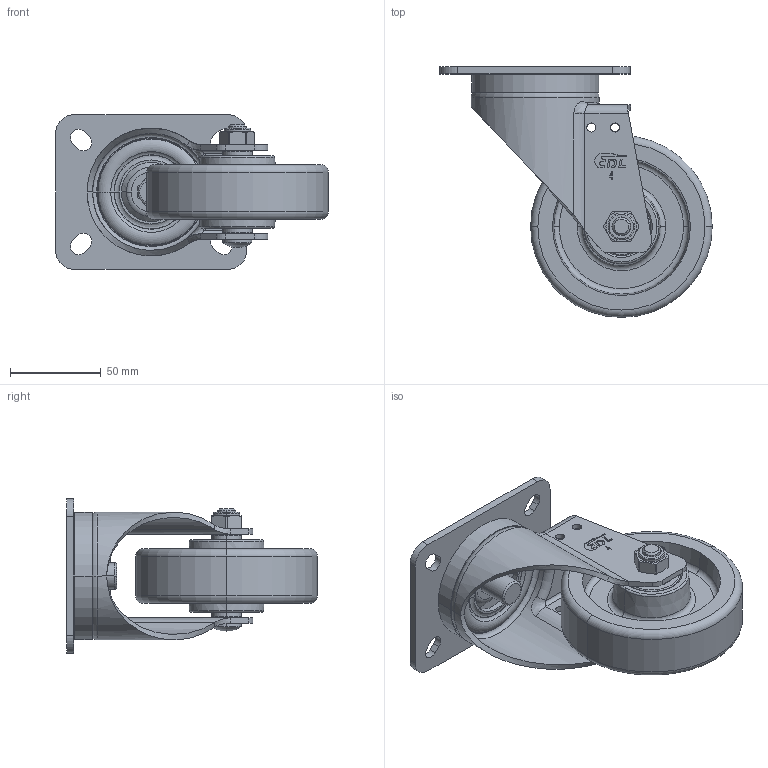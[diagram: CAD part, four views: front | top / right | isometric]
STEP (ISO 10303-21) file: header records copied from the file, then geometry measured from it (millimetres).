
FILE_DESCRIPTION((''),'2;1');
FILE_NAME('66114_ASM_2_ASM','2024-04-27T',('Lenovo'),(''),'PRO/ENGINEER BY PARAMETRIC TECHNOLOGY CORPORATION, 2010280','PRO/ENGINEER BY PARAMETRIC TECHNOLOGY CORPORATION, 2010280','');
FILE_SCHEMA(('CONFIG_CONTROL_DESIGN'));
Length unit declared in the file: millimetre
Products named in the file (27): 6610-201_1; 6614-311_2; 6610-051_1; 6600-734_1; 674-986AA_3; MANIFOLD_SOLID_BREP_14988; MANIFOLD_SOLID_BREP_15356; MANIFOLD_SOLID_BREP_15394; MANIFOLD_SOLID_BREP_15432; MANIFOLD_SOLID_BREP_15470; MANIFOLD_SOLID_BREP_15508; MANIFOLD_SOLID_BREP_15546; MANIFOLD_SOLID_BREP_15584; MANIFOLD_SOLID_BREP_15622; MANIFOLD_SOLID_BREP_15660; MANIFOLD_SOLID_BREP_15698; MANIFOLD_SOLID_BREP_15736; MANIFOLD_SOLID_BREP_15774; MANIFOLD_SOLID_BREP_15812; MANIFOLD_SOLID_BREP_15850; 6201_1_ASM; 500-66_3; 630-54A_1; 674-86A_ASM_1_ASM; 630-33A_3; 630-34_4; 66114_ASM_2_ASM
Assembly tree (28 placements, depth 4):
  66114_ASM_2_ASM
    6610-201_1
    6614-311_2
    6610-051_1
    6600-734_1
    674-86A_ASM_1_ASM
      674-986AA_3
      6201_1_ASM  x2
        MANIFOLD_SOLID_BREP_14988
        MANIFOLD_SOLID_BREP_15356
        MANIFOLD_SOLID_BREP_15394
        MANIFOLD_SOLID_BREP_15432
        MANIFOLD_SOLID_BREP_15470
        MANIFOLD_SOLID_BREP_15508
        MANIFOLD_SOLID_BREP_15546
        MANIFOLD_SOLID_BREP_15584
        MANIFOLD_SOLID_BREP_15622
        MANIFOLD_SOLID_BREP_15660
        MANIFOLD_SOLID_BREP_15698
        MANIFOLD_SOLID_BREP_15736
        MANIFOLD_SOLID_BREP_15774
        MANIFOLD_SOLID_BREP_15812
        MANIFOLD_SOLID_BREP_15850
      500-66_3  x2
      630-54A_1
    630-33A_3
    630-34_4
Bounding box: 150 x 138 x 85 mm (x, y, z)
Volume: 249107.9 mm3; surface area: 112204.9 mm2
Topology: 40 solids, 40 shells, 503 faces, 1320 edges, 807 vertices
Faces by surface type: plane 160, cylinder 130, torus 83, sphere 82, cone 40, bspline 8
Entity records: 14893 total; most frequent: CARTESIAN_POINT 3563, DIRECTION 2574, ORIENTED_EDGE 2116, AXIS2_PLACEMENT_3D 1070, EDGE_CURVE 1058, VERTEX_POINT 698, CIRCLE 572, EDGE_LOOP 492
